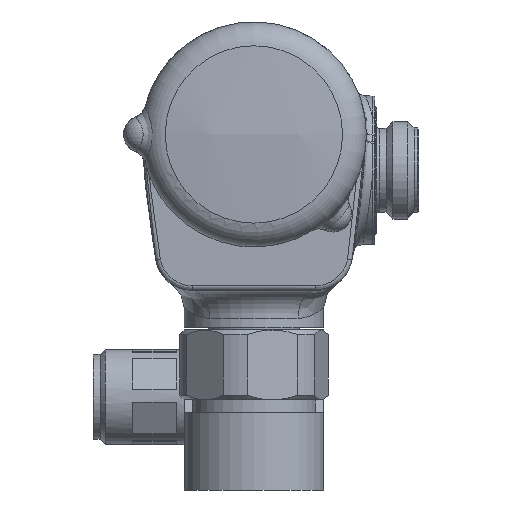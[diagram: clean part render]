
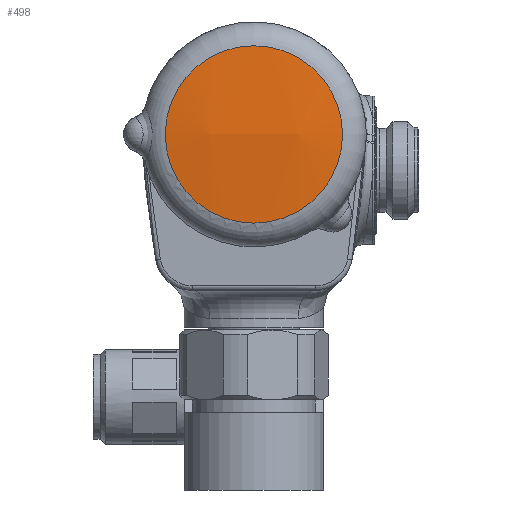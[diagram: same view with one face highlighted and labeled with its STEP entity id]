
A CAD part, left-side view. The second image highlights one B-rep face of the part: STEP entity #498.
In plain terms, the highlighted spherical face has radius 130 mm.
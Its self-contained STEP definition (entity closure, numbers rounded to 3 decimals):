
#498 = ADVANCED_FACE ( 'NONE', ( #3516 ), #3430, .T. ) ;
#631 = EDGE_CURVE ( 'NONE', #7316, #7316, #3340, .T. ) ;
#1537 = AXIS2_PLACEMENT_3D ( 'NONE', #3253, #3185, #3179 ) ;
#2341 = DIRECTION ( 'NONE',  ( 0., -1., 0. ) ) ;
#2344 = DIRECTION ( 'NONE',  ( -1., 0., 0. ) ) ;
#2358 = CARTESIAN_POINT ( 'NONE',  ( -143.646, 0., 76.377 ) ) ;
#3179 = DIRECTION ( 'NONE',  ( 0., -1., 0. ) ) ;
#3185 = DIRECTION ( 'NONE',  ( 0., 0., -1. ) ) ;
#3253 = CARTESIAN_POINT ( 'NONE',  ( -15.049, 0., 76.377 ) ) ;
#3340 = CIRCLE ( 'NONE', #5352, 19.051 ) ;
#3430 = SPHERICAL_SURFACE ( 'NONE', #1537, 130. ) ;
#3516 = FACE_OUTER_BOUND ( 'NONE', #8920, .T. ) ;
#5352 = AXIS2_PLACEMENT_3D ( 'NONE', #2358, #2344, #2341 ) ;
#7316 = VERTEX_POINT ( 'NONE', #7601 ) ;
#7601 = CARTESIAN_POINT ( 'NONE',  ( -143.646, -19.051, 76.377 ) ) ;
#8920 = EDGE_LOOP ( 'NONE', ( #11739 ) ) ;
#11739 = ORIENTED_EDGE ( 'NONE', *, *, #631, .T. ) ;
